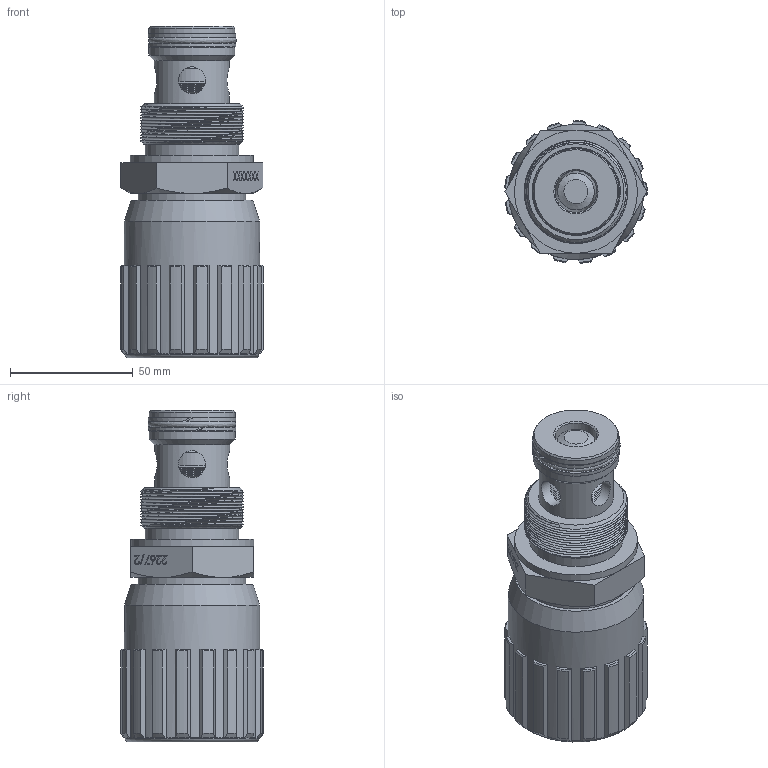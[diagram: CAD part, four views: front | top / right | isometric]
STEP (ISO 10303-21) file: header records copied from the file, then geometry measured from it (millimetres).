
FILE_DESCRIPTION (( 'STEP AP214' ), '1' );
FILE_NAME ('2267-2-100 VOLANTINO ALLUMINIO.STEP', '2025-10-30T14:45:57', ( '' ), ( '' ), 'SwSTEP 2.0', 'SolidWorks 2025', '' );
FILE_SCHEMA (( 'AUTOMOTIVE_DESIGN' ));
Length unit declared in the file: millimetre
Products named in the file (13): ANELLO DI ARRESTO 257-1.003.00-100; 2267-2-100 VOLANTINO ALLUMINIO; DISCO FASCETTA 257-1.004.00-100; VITE TESTA BOMBATA 257-1.006.00-100; VOLANTINO DI MANOVRA 257-2.005.00.0-100_Tipo100_114_112; CAPPUCCIO VOLANTINO 257-2.007.00.1-100_Tipo100; SPILLO DI REGOLAZIONE 2267-2.002.00-100; GRANO DI BLOCCAGGIO M6x10_Tipo18; CORPO CARTUCCIA FILETTATA 2267-2.101.00-100; OR 3118; OR 123; BK 123; ANELLO ANTI ESTRUSIONE 267-5.022.00.0-34
Assembly tree (13 placements, depth 2):
  2267-2-100 VOLANTINO ALLUMINIO
    CORPO CARTUCCIA FILETTATA 2267-2.101.00-100
    SPILLO DI REGOLAZIONE 2267-2.002.00-100
    OR 123
    BK 123
    CAPPUCCIO VOLANTINO 257-2.007.00.1-100_Tipo100
    VOLANTINO DI MANOVRA 257-2.005.00.0-100_Tipo100_114_112
    GRANO DI BLOCCAGGIO M6x10_Tipo18
    OR 3118
    ANELLO ANTI ESTRUSIONE 267-5.022.00.0-34  x2
    VITE TESTA BOMBATA 257-1.006.00-100
    ANELLO DI ARRESTO 257-1.003.00-100
    DISCO FASCETTA 257-1.004.00-100
Bounding box: 57.94 x 57.94 x 134.8 mm (x, y, z)
Volume: 200037.1 mm3; surface area: 82004.8 mm2
Topology: 13 solids, 13 shells, 907 faces, 2246 edges, 1429 vertices
Faces by surface type: plane 517, cone 231, cylinder 91, bspline 58, torus 9, sphere 1
Full cylindrical faces by diameter (mm): 4 x1, 5 x1, 6 x2, 11 x4, 11.7 x1, 15 x1, 17 x2, 18.4 x1, 19.4 x1, 19.5 x1, 20 x1, 20.4 x1, 22 x2, 23 x2, 24 x1, 25.7 x1, 30.35 x1, 30.5 x1, 35 x2, 36 x1, 37.5 x1, 38 x1, 43 x1, 43.1 x1, 43.8 x1, 50 x1, 54.5 x1, 55 x1
Entity records: 32008 total; most frequent: CARTESIAN_POINT 11588, ORIENTED_EDGE 3962, DIRECTION 3910, EDGE_CURVE 1981, VERTEX_POINT 1393, AXIS2_PLACEMENT_3D 1324, VECTOR 1262, LINE 1262
